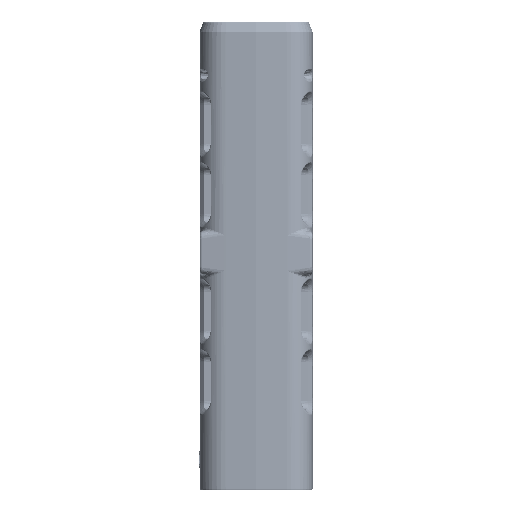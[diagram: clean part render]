
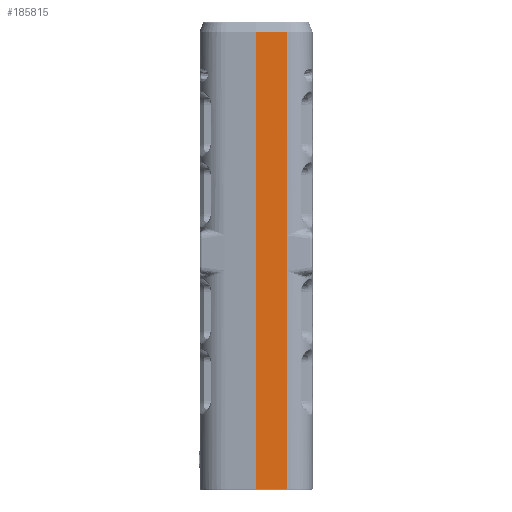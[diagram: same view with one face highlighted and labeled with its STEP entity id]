
A CAD part, left-side view. The second image highlights one B-rep face of the part: STEP entity #185815.
In plain terms, the highlighted planar face has unit normal (-0.999, -0.052, 0).
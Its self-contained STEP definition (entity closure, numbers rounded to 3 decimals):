
#8618=FACE_OUTER_BOUND('',#18577,.T.);
#18577=EDGE_LOOP('',(#121936,#121937,#121938,#121939));
#33250=LINE('',#267021,#53093);
#33377=LINE('',#274908,#53220);
#33378=LINE('',#274911,#53221);
#33379=LINE('',#274912,#53222);
#53093=VECTOR('',#211078,10.);
#53220=VECTOR('',#211687,10.);
#53221=VECTOR('',#211690,10.);
#53222=VECTOR('',#211691,10.);
#73640=VERTEX_POINT('',#267018);
#73641=VERTEX_POINT('',#267020);
#73937=VERTEX_POINT('',#274889);
#73942=VERTEX_POINT('',#274910);
#92051=EDGE_CURVE('',#73641,#73640,#33250,.T.);
#92618=EDGE_CURVE('',#73641,#73937,#33377,.T.);
#92619=EDGE_CURVE('',#73942,#73640,#33378,.T.);
#92620=EDGE_CURVE('',#73942,#73937,#33379,.T.);
#121936=ORIENTED_EDGE('',*,*,#92618,.F.);
#121937=ORIENTED_EDGE('',*,*,#92051,.T.);
#121938=ORIENTED_EDGE('',*,*,#92619,.F.);
#121939=ORIENTED_EDGE('',*,*,#92620,.T.);
#172381=PLANE('',#196539);
#185815=ADVANCED_FACE('',(#8618),#172381,.F.);
#196539=AXIS2_PLACEMENT_3D('',#274909,#211688,#211689);
#211078=DIRECTION('',(0.,0.,1.));
#211687=DIRECTION('',(-0.052,0.999,0.));
#211688=DIRECTION('center_axis',(0.999,0.052,0.));
#211689=DIRECTION('ref_axis',(0.,0.,-1.));
#211690=DIRECTION('',(0.052,-0.999,0.));
#211691=DIRECTION('',(0.,0.,-1.));
#267018=CARTESIAN_POINT('',(-79.389,-8.635,71.616));
#267020=CARTESIAN_POINT('',(-79.389,-8.635,-57.9));
#267021=CARTESIAN_POINT('',(-79.389,-8.635,55.331));
#274889=CARTESIAN_POINT('',(-79.842,0.,-57.9));
#274908=CARTESIAN_POINT('',(-79.831,-0.216,-57.9));
#274909=CARTESIAN_POINT('Origin',(-79.004,-15.978,58.1));
#274910=CARTESIAN_POINT('',(-79.842,0.,71.616));
#274911=CARTESIAN_POINT('',(-79.314,-10.075,71.616));
#274912=CARTESIAN_POINT('',(-79.842,0.,74.05));
